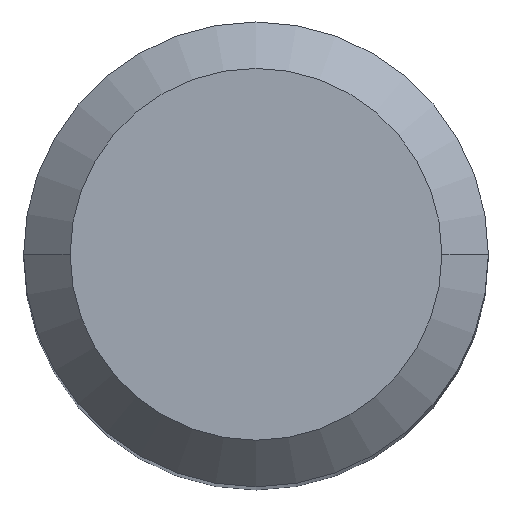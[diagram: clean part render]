
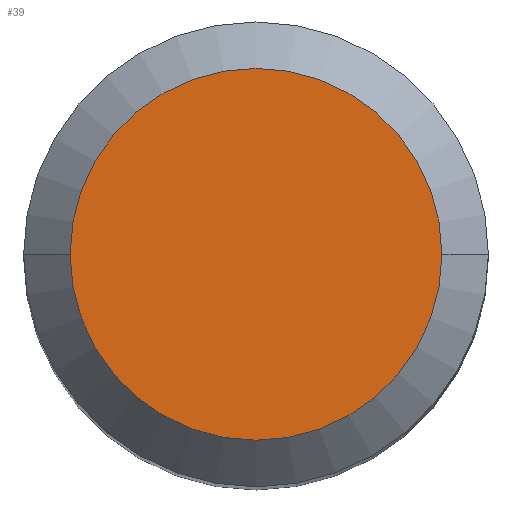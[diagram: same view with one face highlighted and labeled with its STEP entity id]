
A CAD part, top view. The second image highlights one B-rep face of the part: STEP entity #39.
In plain terms, the highlighted planar face has unit normal (0, 0, 1).
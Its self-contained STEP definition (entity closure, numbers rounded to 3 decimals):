
#4 = CIRCLE ( 'NONE', #77, 4. ) ;
#9 = DIRECTION ( 'NONE',  ( -1., 0., 0. ) ) ;
#20 = CARTESIAN_POINT ( 'NONE',  ( 0., 0., 0. ) ) ;
#22 = AXIS2_PLACEMENT_3D ( 'NONE', #143, #286, #448 ) ;
#39 = ADVANCED_FACE ( 'NONE', ( #405 ), #403, .T. ) ;
#55 = DIRECTION ( 'NONE',  ( 0., 0., -1. ) ) ;
#77 = AXIS2_PLACEMENT_3D ( 'NONE', #20, #55, #9 ) ;
#98 = EDGE_CURVE ( 'NONE', #274, #363, #321, .T. ) ;
#118 = CARTESIAN_POINT ( 'NONE',  ( 4., 0., 0. ) ) ;
#143 = CARTESIAN_POINT ( 'NONE',  ( 0., 4., 0. ) ) ;
#167 = AXIS2_PLACEMENT_3D ( 'NONE', #311, #277, #423 ) ;
#252 = ORIENTED_EDGE ( 'NONE', *, *, #445, .F. ) ;
#274 = VERTEX_POINT ( 'NONE', #118 ) ;
#277 = DIRECTION ( 'NONE',  ( 0., 0., -1. ) ) ;
#285 = CARTESIAN_POINT ( 'NONE',  ( -4., 0., 0. ) ) ;
#286 = DIRECTION ( 'NONE',  ( 0., 0., 1. ) ) ;
#311 = CARTESIAN_POINT ( 'NONE',  ( 0., 0., 0. ) ) ;
#315 = ORIENTED_EDGE ( 'NONE', *, *, #98, .F. ) ;
#321 = CIRCLE ( 'NONE', #167, 4. ) ;
#363 = VERTEX_POINT ( 'NONE', #285 ) ;
#403 = PLANE ( 'NONE',  #22 ) ;
#405 = FACE_OUTER_BOUND ( 'NONE', #424, .T. ) ;
#423 = DIRECTION ( 'NONE',  ( -1., 0., 0. ) ) ;
#424 = EDGE_LOOP ( 'NONE', ( #252, #315 ) ) ;
#445 = EDGE_CURVE ( 'NONE', #363, #274, #4, .T. ) ;
#448 = DIRECTION ( 'NONE',  ( 1., 0., 0. ) ) ;
